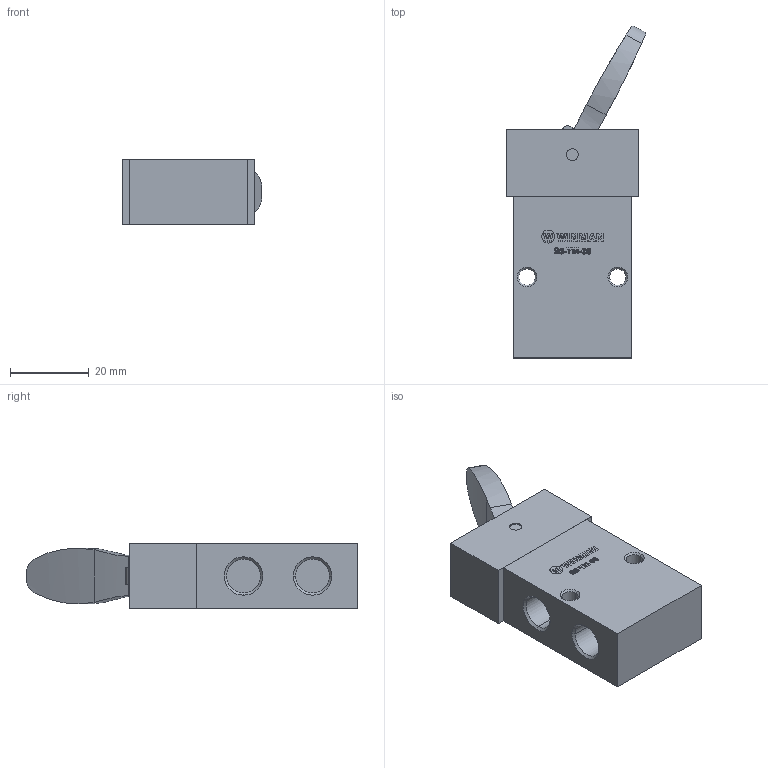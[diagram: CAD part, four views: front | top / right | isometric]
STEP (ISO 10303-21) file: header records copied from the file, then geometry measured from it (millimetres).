
FILE_DESCRIPTION (( 'STEP AP214' ), '1' );
FILE_NAME ('S3-YM-06 (3D).STEP', '2018-12-20T10:11:55', ( 'Hidtek' ), ( '' ), 'SwSTEP 2.0', 'SolidWorks 2016', '' );
FILE_SCHEMA (( 'AUTOMOTIVE_DESIGN' ));
Length unit declared in the file: millimetre
Products named in the file (5): S3-YM-06 (3D); S3-B-06; _Y Type Shaft; _Y Type Holder; S3-YM
Assembly tree (4 placements, depth 3):
  S3-YM-06 (3D)
    S3-B-06
    S3-YM
      _Y Type Holder
      _Y Type Shaft
Bounding box: 35.33 x 84.13 x 16.5 mm (x, y, z)
Volume: 27170.6 mm3; surface area: 11568.1 mm2
Topology: 3 solids, 3 shells, 363 faces, 942 edges, 615 vertices
Faces by surface type: plane 188, cylinder 73, bspline 62, cone 38, torus 2
Entity records: 16737 total; most frequent: CARTESIAN_POINT 5581, ORIENTED_EDGE 1872, DIRECTION 1589, EDGE_CURVE 936, VERTEX_POINT 615, LINE 607, VECTOR 607, AXIS2_PLACEMENT_3D 491
